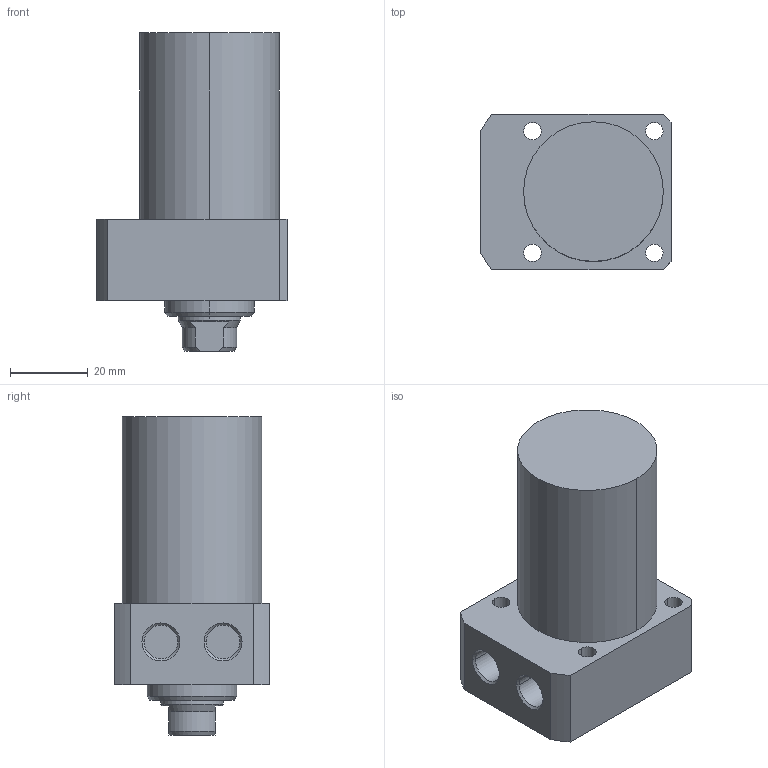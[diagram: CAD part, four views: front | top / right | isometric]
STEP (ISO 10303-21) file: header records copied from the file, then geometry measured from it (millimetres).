
FILE_DESCRIPTION((' '),'2;1');
FILE_NAME( 'TLLR-036CA-040.STEP.stp', '2025-10-24T16:35:44', (' '), ('--- Datakit www.datakit.com---'), ' Datakit CrossCadWare V2024.1 Dec 21 2023', 'Mastercam 2025', ' ');
FILE_SCHEMA(('AUTOMOTIVE_DESIGN { 1 0 10303 214 1 1 1 1 }'));
Length unit declared in the file: millimetre
Products named in the file (1): TLLR-036CA-040
Bounding box: 49 x 40 x 82 mm (x, y, z)
Volume: 89561.7 mm3; surface area: 15508.5 mm2
Topology: 1 solids, 1 shells, 61 faces, 172 edges, 119 vertices
Faces by surface type: cylinder 28, plane 19, cone 14
Entity records: 2092 total; most frequent: DIRECTION 384, CARTESIAN_POINT 383, ORIENTED_EDGE 340, EDGE_CURVE 170, AXIS2_PLACEMENT_3D 160, VERTEX_POINT 119, CIRCLE 98, EDGE_LOOP 77
